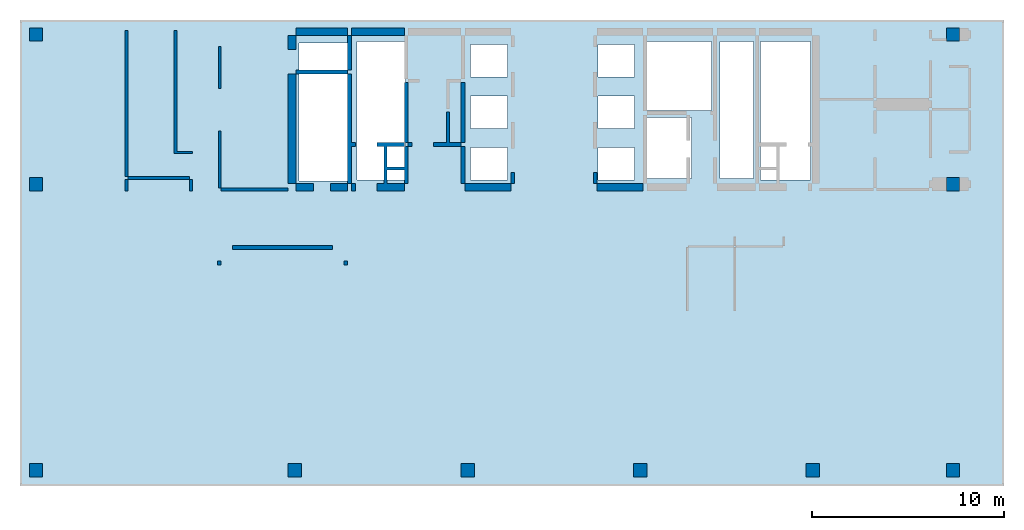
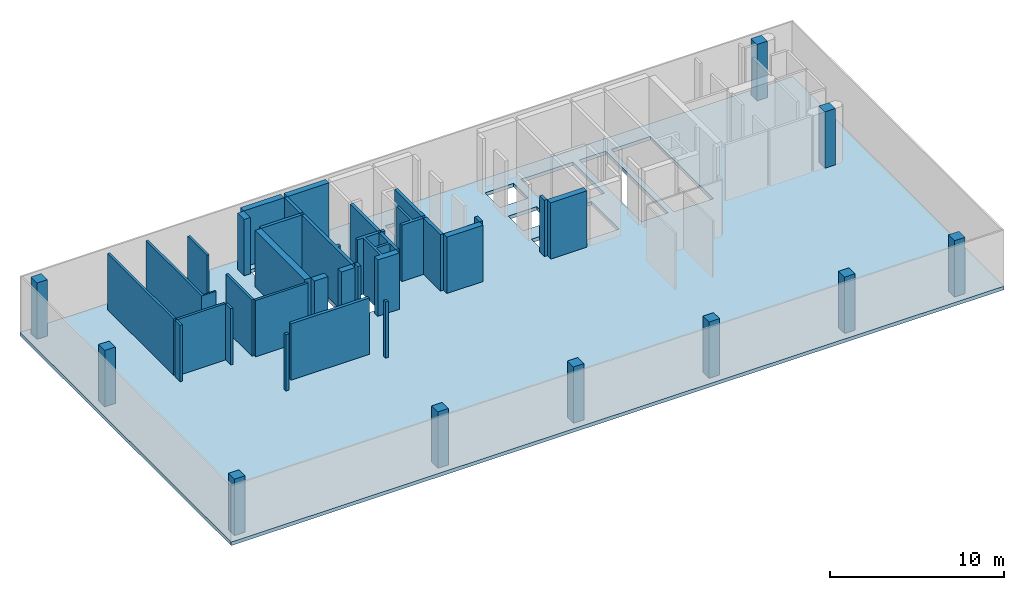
# One storey, part 1 of 4: 31 walls, 10 columns, 1 slab.
"""IFC4 building model written with IfcOpenShell, lengths in millimetres."""

from ifc_helpers import new_model, si_unit, frame, origin, place, context, project, spatial, triangles, element, save


model = new_model("IFC4")

# Units and contexts
model_context = context("Model", 3, precision=0.001, world=origin())
ifc_project = project(units=[si_unit("LENGTHUNIT", "METRE", prefix="MILLI"), si_unit("AREAUNIT", "SQUARE_METRE"), si_unit("VOLUMEUNIT", "CUBIC_METRE")], contexts=[model_context])

# Site, building, storey
site_placement = place(None, origin())
site = spatial("IfcSite", under=ifc_project, at=site_placement, Name="Site", CompositionType="ELEMENT")
building_placement = place(site_placement, origin())
building = spatial("IfcBuilding", under=site, at=building_placement, Name="INNOCEAN", CompositionType="ELEMENT")
storey_placement = place(building_placement, frame((0.0, 0.0, 34400.0)))
storey = spatial("IfcBuildingStorey", under=building, at=storey_placement, Name="F08", CompositionType="ELEMENT", Elevation=34400.0)

# Columns
column_1_placement = place(storey_placement, origin())
element("IfcColumn", 1, at=column_1_placement, inside=storey, Name="F08_Columns_F08_001", context=model_context, shape_type="Tessellation", body=[
    triangles([(40114.8, 2023.7, 0.0), (40114.8, 2023.7, 3950.0), (40114.8, 2722.3, 0.0), (40114.8, 2722.3, 3950.0), (40813.0, 2023.7, 3950.0), (40813.0, 2023.7, 0.0), (40813.0, 2722.3, 0.0), (40813.0, 2722.3, 3950.0)], [[1, 2, 3], [3, 2, 4], [5, 6, 7], [5, 7, 8], [6, 5, 1], [1, 5, 2], [8, 7, 3], [8, 3, 4], [3, 7, 1], [1, 7, 6], [8, 4, 2], [8, 2, 5]], closed=True),
])
column_2_placement = place(storey_placement, origin())
element("IfcColumn", 2, at=column_2_placement, inside=storey, Name="F08_Columns_F08_002", context=model_context, shape_type="Tessellation", body=[
    triangles([(47413.4, 24721.0, 0.0), (47413.4, 24721.0, 3950.0), (47413.4, 25419.5, 0.0), (47413.4, 25419.5, 3950.0), (48111.6, 24721.0, 3950.0), (48111.6, 24721.0, 0.0), (48111.6, 25419.5, 0.0), (48111.6, 25419.5, 3950.0)], [[1, 2, 3], [3, 2, 4], [5, 6, 7], [5, 7, 8], [6, 5, 1], [1, 5, 2], [8, 7, 3], [8, 3, 4], [1, 3, 6], [3, 7, 6], [4, 2, 5], [8, 4, 5]], closed=True),
])
column_3_placement = place(storey_placement, origin())
element("IfcColumn", 3, at=column_3_placement, inside=storey, Name="F08_Columns_F08_003", context=model_context, shape_type="Tessellation", body=[
    triangles([(47413.4, 16922.4, 0.0), (47413.4, 16922.4, 3950.0), (47413.4, 17620.9, 0.0), (47413.4, 17620.9, 3950.0), (48111.6, 16922.4, 3950.0), (48111.6, 16922.4, 0.0), (48111.6, 17620.9, 0.0), (48111.6, 17620.9, 3950.0)], [[1, 2, 3], [3, 2, 4], [5, 6, 7], [5, 7, 8], [6, 5, 1], [1, 5, 2], [8, 7, 3], [8, 3, 4], [1, 3, 6], [3, 7, 6], [4, 2, 5], [8, 4, 5]], closed=True),
])
column_4_placement = place(storey_placement, origin())
element("IfcColumn", 4, at=column_4_placement, inside=storey, Name="F08_Columns_F08_004", context=model_context, shape_type="Tessellation", body=[
    triangles([(13129.0, 2023.7, 0.0), (13129.0, 2023.7, 3950.0), (13129.0, 2722.3, 0.0), (13129.0, 2722.3, 3950.0), (13827.2, 2023.7, 3950.0), (13827.2, 2023.7, 0.0), (13827.2, 2722.3, 0.0), (13827.2, 2722.3, 3950.0)], [[1, 2, 3], [3, 2, 4], [5, 6, 7], [5, 7, 8], [6, 5, 1], [1, 5, 2], [8, 7, 3], [8, 3, 4], [3, 7, 1], [1, 7, 6], [8, 4, 2], [8, 2, 5]], closed=True),
])
column_5_placement = place(storey_placement, origin())
element("IfcColumn", 5, at=column_5_placement, inside=storey, Name="F08_Columns_F08_005", context=model_context, shape_type="Tessellation", body=[
    triangles([(47413.4, 2023.7, 0.0), (47413.4, 2023.7, 3950.0), (47413.4, 2722.3, 0.0), (47413.4, 2722.3, 3950.0), (48111.6, 2023.7, 3950.0), (48111.6, 2023.7, 0.0), (48111.6, 2722.3, 0.0), (48111.6, 2722.3, 3950.0)], [[1, 2, 3], [3, 2, 4], [5, 6, 7], [5, 7, 8], [6, 5, 1], [1, 5, 2], [8, 7, 3], [8, 3, 4], [3, 7, 1], [1, 7, 6], [8, 4, 2], [8, 2, 5]], closed=True),
])
column_6_placement = place(storey_placement, origin())
element("IfcColumn", 6, at=column_6_placement, inside=storey, Name="F08_Columns_F08_006", context=model_context, shape_type="Tessellation", body=[
    triangles([(-363.9, 2023.7, 0.0), (-363.9, 2023.7, 3950.0), (-363.9, 2722.3, 0.0), (-363.9, 2722.3, 3950.0), (334.3, 2023.7, 3950.0), (334.3, 2023.7, 0.0), (334.3, 2722.3, 0.0), (334.3, 2722.3, 3950.0)], [[1, 2, 3], [3, 2, 4], [5, 6, 7], [5, 7, 8], [6, 5, 1], [1, 5, 2], [8, 7, 3], [8, 3, 4], [3, 7, 1], [1, 7, 6], [8, 4, 2], [8, 2, 5]], closed=True),
])
column_7_placement = place(storey_placement, origin())
element("IfcColumn", 7, at=column_7_placement, inside=storey, Name="F08_Columns_F08_007", context=model_context, shape_type="Tessellation", body=[
    triangles([(-363.9, 24721.0, 0.0), (-363.9, 24721.0, 3950.0), (-363.9, 25419.5, 0.0), (-363.9, 25419.5, 3950.0), (334.3, 24721.0, 3950.0), (334.3, 24721.0, 0.0), (334.3, 25419.5, 0.0), (334.3, 25419.5, 3950.0)], [[1, 2, 3], [3, 2, 4], [5, 6, 7], [5, 7, 8], [6, 5, 1], [1, 5, 2], [8, 7, 3], [8, 3, 4], [3, 7, 1], [1, 7, 6], [8, 4, 2], [8, 2, 5]], closed=True),
])
column_8_placement = place(storey_placement, origin())
element("IfcColumn", 8, at=column_8_placement, inside=storey, Name="F08_Columns_F08_008", context=model_context, shape_type="Tessellation", body=[
    triangles([(31128.0, 2023.7, 0.0), (31128.0, 2023.7, 3950.0), (31128.0, 2722.3, 0.0), (31128.0, 2722.3, 3950.0), (31826.2, 2023.7, 3950.0), (31826.2, 2023.7, 0.0), (31826.2, 2722.3, 0.0), (31826.2, 2722.3, 3950.0)], [[1, 2, 3], [3, 2, 4], [5, 6, 7], [5, 7, 8], [6, 5, 1], [1, 5, 2], [8, 7, 3], [8, 3, 4], [3, 7, 1], [1, 7, 6], [8, 4, 2], [8, 2, 5]], closed=True),
])
column_9_placement = place(storey_placement, origin())
element("IfcColumn", 9, at=column_9_placement, inside=storey, Name="F08_Columns_F08_009", context=model_context, shape_type="Tessellation", body=[
    triangles([(22128.5, 2023.7, 0.0), (22128.5, 2023.7, 3950.0), (22128.5, 2722.3, 0.0), (22128.5, 2722.3, 3950.0), (22826.7, 2023.7, 3950.0), (22826.7, 2023.7, 0.0), (22826.7, 2722.3, 0.0), (22826.7, 2722.3, 3950.0)], [[1, 2, 3], [3, 2, 4], [5, 6, 7], [5, 7, 8], [6, 5, 1], [1, 5, 2], [8, 7, 3], [8, 3, 4], [3, 7, 1], [1, 7, 6], [8, 4, 2], [8, 2, 5]], closed=True),
])
column_10_placement = place(storey_placement, origin())
element("IfcColumn", 10, at=column_10_placement, inside=storey, Name="F08_Columns_F08_010", context=model_context, shape_type="Tessellation", body=[
    triangles([(-363.9, 16922.4, 0.0), (-363.9, 16922.4, 3950.0), (-363.9, 17620.9, 0.0), (-363.9, 17620.9, 3950.0), (334.3, 16922.4, 3950.0), (334.3, 16922.4, 0.0), (334.3, 17620.9, 0.0), (334.3, 17620.9, 3950.0)], [[1, 2, 3], [3, 2, 4], [5, 6, 7], [5, 7, 8], [6, 5, 1], [1, 5, 2], [8, 7, 3], [8, 3, 4], [3, 7, 1], [1, 7, 6], [8, 4, 2], [8, 2, 5]], closed=True),
])

# Slab
slab_placement = place(storey_placement, origin())
element("IfcSlab", 11, at=slab_placement, inside=storey, Name="F08_Slab_F08_001", context=model_context, shape_type="Tessellation", body=[
    triangles([(-846.215139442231, 25825.974025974, 0.0), (50420.3187250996, 25825.974025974, -250.0), (-846.215139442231, 25825.974025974, -250.0), (50420.3187250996, 25825.974025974, 0.0), (-846.215139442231, 1552.38095238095, 0.0), (-846.215139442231, 1552.38095238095, -250.0), (50420.3187250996, 1552.38095238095, 0.0), (50420.3187250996, 1552.38095238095, -250.0), (34130.6772908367, 20745.4545454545, -250.0), (31733.0677290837, 20745.4545454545, 0.0), (31733.0677290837, 20745.4545454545, -250.0), (34130.6772908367, 20745.4545454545, 0.0), (31733.0677290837, 17570.1298701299, 0.0), (31733.0677290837, 17570.1298701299, -250.0), (34130.6772908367, 17570.1298701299, 0.0), (34130.6772908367, 17570.1298701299, -250.0), (31168.9243027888, 19193.0735930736, 0.0), (29264.9402390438, 19193.0735930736, 0.0), (29264.9402390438, 19193.0735930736, -250.0), (31168.9243027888, 19193.0735930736, -250.0), (31168.9243027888, 17499.5670995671, 0.0), (31168.9243027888, 17499.5670995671, -250.0), (29264.9402390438, 17499.5670995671, 0.0), (29264.9402390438, 17499.5670995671, -250.0), (31168.9243027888, 21874.4588744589, 0.0), (29264.9402390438, 21874.4588744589, 0.0), (29264.9402390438, 21874.4588744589, -250.0), (31168.9243027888, 21874.4588744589, -250.0), (29264.9402390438, 20180.9523809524, 0.0), (29264.9402390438, 20180.9523809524, -250.0), (31168.9243027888, 20180.9523809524, 0.0), (31168.9243027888, 20180.9523809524, -250.0), (24540.2390438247, 19193.0735930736, -250.0), (22636.2549800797, 19193.0735930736, 0.0), (22636.2549800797, 19193.0735930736, -250.0), (24540.2390438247, 19193.0735930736, 0.0), (22636.2549800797, 17499.5670995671, 0.0), (22636.2549800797, 17499.5670995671, -250.0), (24540.2390438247, 17499.5670995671, 0.0), (24540.2390438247, 17499.5670995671, -250.0), (24540.2390438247, 21874.4588744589, -250.0), (22636.2549800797, 21874.4588744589, 0.0), (22636.2549800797, 21874.4588744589, -250.0), (24540.2390438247, 21874.4588744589, 0.0), (22636.2549800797, 20180.9523809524, 0.0), (22636.2549800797, 20180.9523809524, -250.0), (24540.2390438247, 20180.9523809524, 0.0), (24540.2390438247, 20180.9523809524, -250.0), (16219.1235059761, 24626.4069264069, 0.0), (13680.4780876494, 24626.4069264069, 0.0), (13680.4780876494, 24626.4069264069, -250.0), (16219.1235059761, 24626.4069264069, -250.0), (13680.4780876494, 17429.0043290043, 0.0), (13680.4780876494, 17429.0043290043, -250.0), (16219.1235059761, 17429.0043290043, 0.0), (16219.1235059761, 17429.0043290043, -250.0), (40336.2549800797, 24696.9696969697, -250.0), (37727.0916334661, 24696.9696969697, 0.0), (37727.0916334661, 24696.9696969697, -250.0), (40336.2549800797, 24696.9696969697, 0.0), (37727.0916334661, 17499.5670995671, 0.0), (37727.0916334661, 17499.5670995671, -250.0), (40336.2549800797, 17499.5670995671, 0.0), (40336.2549800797, 17499.5670995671, -250.0), (37374.5019920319, 24696.9696969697, 0.0), (35611.5537848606, 24696.9696969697, 0.0), (35611.5537848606, 24696.9696969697, -250.0), (37374.5019920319, 24696.9696969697, -250.0), (35611.5537848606, 17570.1298701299, 0.0), (35611.5537848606, 17570.1298701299, -250.0), (37374.5019920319, 17570.1298701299, 0.0), (37374.5019920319, 17570.1298701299, -250.0), (35188.4462151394, 24696.9696969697, 0.0), (31733.0677290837, 24696.9696969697, 0.0), (31733.0677290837, 24696.9696969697, -250.0), (35188.4462151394, 24696.9696969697, -250.0), (31733.0677290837, 21098.2683982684, 0.0), (31733.0677290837, 21098.2683982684, -250.0), (35188.4462151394, 21098.2683982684, 0.0), (35188.4462151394, 21098.2683982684, -250.0), (31168.9243027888, 24555.8441558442, 0.0), (29264.9402390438, 24555.8441558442, 0.0), (29264.9402390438, 24555.8441558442, -250.0), (31168.9243027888, 24555.8441558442, -250.0), (29264.9402390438, 22862.3376623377, 0.0), (29264.9402390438, 22862.3376623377, -250.0), (31168.9243027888, 22862.3376623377, 0.0), (31168.9243027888, 22862.3376623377, -250.0), (19251.3944223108, 24696.9696969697, 0.0), (16712.7490039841, 24696.9696969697, 0.0), (16712.7490039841, 24696.9696969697, -250.0), (19251.3944223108, 24696.9696969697, -250.0), (16712.7490039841, 17499.5670995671, 0.0), (16712.7490039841, 17499.5670995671, -250.0), (19251.3944223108, 17499.5670995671, 0.0), (19251.3944223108, 17499.5670995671, -250.0), (24540.2390438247, 24555.8441558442, -250.0), (22636.2549800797, 24555.8441558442, 0.0), (22636.2549800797, 24555.8441558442, -250.0), (24540.2390438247, 24555.8441558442, 0.0), (22636.2549800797, 22862.3376623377, 0.0), (22636.2549800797, 22862.3376623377, -250.0), (24540.2390438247, 22862.3376623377, 0.0), (24540.2390438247, 22862.3376623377, -250.0)], [[1, 2, 3], [1, 4, 2], [5, 1, 6], [6, 1, 3], [4, 7, 2], [2, 7, 8], [7, 6, 8], [7, 5, 6], [9, 10, 11], [12, 10, 9], [10, 13, 14], [10, 14, 11], [15, 12, 9], [15, 9, 16], [14, 15, 16], [13, 15, 14], [17, 18, 19], [17, 19, 20], [21, 17, 20], [21, 20, 22], [23, 21, 22], [23, 22, 24], [18, 23, 24], [18, 24, 19], [25, 26, 27], [25, 27, 28], [26, 29, 30], [26, 30, 27], [31, 25, 28], [31, 28, 32], [29, 31, 32], [29, 32, 30], [33, 34, 35], [36, 34, 33], [34, 37, 38], [34, 38, 35], [39, 36, 33], [39, 33, 40], [38, 39, 40], [37, 39, 38], [41, 42, 43], [44, 42, 41], [42, 45, 46], [42, 46, 43], [47, 44, 41], [47, 41, 48], [46, 47, 48], [45, 47, 46], [49, 50, 51], [49, 51, 52], [50, 53, 54], [50, 54, 51], [55, 49, 52], [55, 52, 56], [53, 55, 56], [53, 56, 54], [57, 58, 59], [60, 58, 57], [58, 61, 62], [58, 62, 59], [63, 60, 57], [63, 57, 64], [62, 63, 64], [61, 63, 62], [65, 66, 67], [65, 67, 68], [66, 69, 70], [66, 70, 67], [71, 65, 68], [71, 68, 72], [69, 71, 72], [69, 72, 70], [73, 74, 75], [73, 75, 76], [74, 77, 78], [74, 78, 75], [79, 73, 76], [79, 76, 80], [77, 79, 80], [77, 80, 78], [81, 82, 83], [81, 83, 84], [82, 85, 86], [82, 86, 83], [87, 81, 84], [87, 84, 88], [85, 87, 88], [85, 88, 86], [89, 90, 91], [89, 91, 92], [90, 93, 94], [90, 94, 91], [95, 89, 92], [95, 92, 96], [93, 95, 96], [93, 96, 94], [97, 98, 99], [100, 98, 97], [98, 101, 102], [98, 102, 99], [103, 100, 97], [103, 97, 104], [102, 103, 104], [101, 103, 102], [4, 63, 7], [63, 61, 7], [61, 69, 7], [71, 69, 61], [69, 15, 7], [4, 60, 63], [13, 21, 15], [15, 21, 7], [79, 12, 69], [69, 12, 15], [13, 17, 21], [21, 23, 7], [17, 10, 31], [12, 77, 10], [10, 77, 31], [66, 73, 79], [31, 18, 17], [77, 25, 31], [31, 29, 18], [77, 87, 25], [23, 39, 7], [74, 81, 87], [25, 85, 26], [87, 85, 25], [29, 36, 18], [18, 36, 23], [23, 36, 39], [74, 82, 81], [26, 47, 29], [29, 47, 36], [26, 44, 47], [36, 45, 34], [47, 45, 36], [34, 95, 37], [45, 95, 34], [85, 103, 26], [26, 103, 44], [103, 42, 44], [45, 42, 95], [85, 100, 103], [82, 100, 85], [103, 101, 42], [93, 55, 95], [39, 5, 7], [37, 5, 39], [95, 5, 37], [55, 5, 95], [55, 53, 5], [42, 89, 95], [101, 89, 42], [98, 89, 101], [90, 49, 93], [93, 49, 55], [90, 50, 49], [50, 1, 53], [53, 1, 5], [4, 1, 60], [60, 1, 58], [58, 1, 65], [65, 1, 66], [66, 1, 73], [73, 1, 74], [74, 1, 82], [82, 1, 100], [100, 1, 98], [98, 1, 89], [89, 1, 90], [90, 1, 50], [13, 10, 17], [69, 66, 79], [65, 71, 58], [58, 71, 61], [77, 74, 87], [79, 77, 12], [64, 2, 8], [62, 64, 8], [70, 62, 8], [70, 72, 62], [16, 70, 8], [57, 2, 64], [22, 14, 16], [22, 16, 8], [9, 80, 70], [9, 70, 16], [20, 14, 22], [24, 22, 8], [11, 20, 32], [78, 9, 11], [78, 11, 32], [76, 67, 80], [19, 32, 20], [28, 78, 32], [30, 32, 19], [88, 78, 28], [40, 24, 8], [84, 75, 88], [86, 28, 27], [86, 88, 28], [33, 30, 19], [33, 19, 24], [33, 24, 40], [83, 75, 84], [48, 27, 30], [48, 30, 33], [41, 27, 48], [46, 33, 35], [46, 48, 33], [96, 35, 38], [96, 46, 35], [104, 86, 27], [104, 27, 41], [43, 104, 41], [43, 46, 96], [97, 86, 104], [97, 83, 86], [102, 104, 43], [56, 94, 96], [6, 40, 8], [6, 38, 40], [6, 96, 38], [6, 56, 96], [54, 56, 6], [92, 43, 96], [92, 102, 43], [92, 99, 102], [52, 91, 94], [52, 94, 56], [51, 91, 52], [3, 51, 54], [3, 54, 6], [3, 2, 57], [3, 57, 59], [3, 59, 68], [3, 68, 67], [3, 67, 76], [3, 76, 75], [3, 75, 83], [3, 83, 97], [3, 97, 99], [3, 99, 92], [3, 92, 91], [3, 91, 51], [11, 14, 20], [67, 70, 80], [72, 68, 59], [72, 59, 62], [75, 78, 88], [78, 80, 9]], closed=True),
])

# Walls
wall_1_placement = place(storey_placement, origin())
element("IfcWall", 12, at=wall_1_placement, inside=storey, Name="F08_Walls_F08_001", context=model_context, shape_type="Tessellation", body=[
    triangles([(16226.2, 13073.9, 0.0), (16226.2, 13277.1, 0.0), (16226.2, 13277.1, 3950.0), (16226.2, 13073.9, 3950.0), (16035.8, 13073.9, 0.0), (16035.8, 13073.9, 3950.0), (16035.8, 13277.1, 0.0), (16035.8, 13277.1, 3950.0)], [[1, 2, 3], [1, 3, 4], [5, 1, 4], [5, 4, 6], [7, 5, 6], [7, 6, 8], [2, 7, 8], [2, 8, 3], [7, 2, 1], [7, 1, 5], [3, 8, 4], [4, 8, 6]], closed=True),
])
wall_2_placement = place(storey_placement, origin())
element("IfcWall", 13, at=wall_2_placement, inside=storey, Name="F08_Walls_F08_002", context=model_context, shape_type="Tessellation", body=[
    triangles([(9638.4, 13073.9, 0.0), (9638.4, 13277.1, 0.0), (9638.4, 13277.1, 3950.0), (9638.4, 13073.9, 3950.0), (9435.3, 13073.9, 0.0), (9435.3, 13073.9, 3950.0), (9435.3, 13277.1, 0.0), (9435.3, 13277.1, 3950.0)], [[1, 2, 3], [1, 3, 4], [5, 1, 4], [5, 4, 6], [7, 5, 6], [7, 6, 8], [2, 7, 8], [2, 8, 3], [7, 2, 1], [7, 1, 5], [3, 8, 4], [4, 8, 6]], closed=True),
])
wall_3_placement = place(storey_placement, origin())
element("IfcWall", 14, at=wall_3_placement, inside=storey, Name="F08_Walls_F08_003", context=model_context, shape_type="Tessellation", body=[
    triangles([(15426.5, 13874.1, 0.0), (15426.5, 14077.3, 0.0), (15426.5, 14077.3, 3950.0), (15426.5, 13874.1, 3950.0), (10235.0, 13874.1, 0.0), (10235.0, 13874.1, 3950.0), (10235.0, 14077.3, 0.0), (10235.0, 14077.3, 3950.0)], [[1, 2, 3], [1, 3, 4], [5, 1, 4], [5, 4, 6], [7, 5, 6], [7, 6, 8], [2, 7, 8], [2, 8, 3], [5, 2, 1], [7, 2, 5], [3, 6, 4], [3, 8, 6]], closed=True),
])
wall_4_placement = place(storey_placement, origin())
element("IfcWall", 15, at=wall_4_placement, inside=storey, Name="F08_Walls_F08_004", context=model_context, shape_type="Tessellation", body=[
    triangles([(13129.0, 16922.4, 0.0), (13129.0, 17074.8, 0.0), (13129.0, 17074.8, 3950.0), (13129.0, 16922.4, 3950.0), (9638.4, 16922.4, 3950.0), (9638.4, 16922.4, 0.0), (9638.4, 17074.8, 0.0), (9638.4, 17074.8, 3950.0)], [[1, 2, 3], [1, 3, 4], [1, 4, 5], [6, 1, 5], [7, 6, 5], [7, 5, 8], [7, 8, 3], [2, 7, 3], [7, 2, 1], [7, 1, 6], [3, 8, 4], [4, 8, 5]], closed=True),
])
wall_5_placement = place(storey_placement, origin())
element("IfcWall", 16, at=wall_5_placement, inside=storey, Name="F08_Walls_F08_005", context=model_context, shape_type="Tessellation", body=[
    triangles([(16226.2, 17316.1, 0.0), (16226.2, 17316.1, 3950.0), (16226.2, 16922.4, 3950.0), (16226.2, 16922.4, 0.0), (15337.6, 16922.4, 0.0), (15337.6, 16922.4, 3950.0), (15337.6, 17316.1, 3950.0), (15337.6, 17316.1, 0.0)], [[1, 2, 3], [4, 1, 3], [5, 4, 3], [5, 3, 6], [5, 6, 7], [8, 5, 7], [1, 8, 7], [1, 7, 2], [8, 1, 4], [8, 4, 5], [2, 7, 3], [3, 7, 6]], closed=True),
])
wall_6_placement = place(storey_placement, origin())
element("IfcWall", 17, at=wall_6_placement, inside=storey, Name="F08_Walls_F08_006", context=model_context, shape_type="Tessellation", body=[
    triangles([(14436.4, 17316.1, 0.0), (14436.4, 17316.1, 3950.0), (14436.4, 16922.4, 3950.0), (14436.4, 16922.4, 0.0), (13535.2, 16922.4, 0.0), (13535.2, 16922.4, 3950.0), (13535.2, 17316.1, 3950.0), (13535.2, 17316.1, 0.0)], [[1, 2, 3], [4, 1, 3], [5, 4, 3], [5, 3, 6], [5, 6, 7], [8, 5, 7], [1, 8, 7], [1, 7, 2], [8, 1, 4], [8, 4, 5], [2, 7, 3], [3, 7, 6]], closed=True),
])
wall_7_placement = place(storey_placement, origin())
element("IfcWall", 18, at=wall_7_placement, inside=storey, Name="F08_Walls_F08_007", context=model_context, shape_type="Tessellation", body=[
    triangles([(16632.4, 17316.1, 0.0), (16632.4, 17316.1, 3950.0), (16632.4, 16922.4, 3950.0), (16632.4, 16922.4, 0.0), (16429.3, 16922.4, 3950.0), (16429.3, 16922.4, 0.0), (16429.3, 17316.1, 3950.0), (16429.3, 17316.1, 0.0)], [[1, 2, 3], [4, 1, 3], [4, 3, 5], [6, 4, 5], [6, 5, 7], [8, 6, 7], [8, 7, 2], [1, 8, 2], [8, 1, 4], [8, 4, 6], [2, 7, 3], [3, 7, 5]], closed=True),
])
wall_8_placement = place(storey_placement, origin())
element("IfcWall", 19, at=wall_8_placement, inside=storey, Name="F08_Walls_F08_008", context=model_context, shape_type="Tessellation", body=[
    triangles([(17749.4, 16922.4, 0.0), (17749.4, 16922.4, 3950.0), (17749.4, 17316.1, 3950.0), (17749.4, 17316.1, 0.0), (19183.7, 16922.4, 0.0), (19183.7, 16922.4, 3950.0), (19183.7, 17316.1, 0.0), (19183.7, 17316.1, 3950.0), (19374.1, 17316.1, 0.0), (19374.1, 17316.1, 3950.0), (19374.1, 19246.7, 0.0), (19374.1, 19246.7, 3950.0), (19183.7, 19246.7, 0.0), (19183.7, 19246.7, 3950.0), (19183.7, 19449.9, 0.0), (19183.7, 19449.9, 3950.0), (17749.4, 19449.9, 0.0), (17749.4, 19449.9, 3950.0), (17749.4, 19246.7, 0.0), (17749.4, 19246.7, 3950.0), (18130.2, 19246.7, 0.0), (18130.2, 19246.7, 3950.0), (18130.2, 19245.0, 0.0), (18130.2, 19245.0, 3950.0), (18130.0, 19245.0, 0.0), (18130.0, 19245.0, 3950.0), (18130.0, 17316.1, 0.0), (18130.0, 17316.1, 3950.0), (18282.5, 17316.1, 0.0), (18282.5, 17316.1, 3950.0), (18282.5, 18014.7, 0.0), (18282.5, 18014.7, 3950.0), (19183.7, 18014.7, 0.0), (19183.7, 18014.7, 3950.0), (19183.7, 18167.1, 0.0), (19183.7, 18167.1, 3950.0), (18282.5, 18167.1, 0.0), (18282.5, 18167.1, 3950.0), (18282.5, 19246.7, 0.0), (18282.5, 19246.7, 3950.0)], [[1, 2, 3], [4, 1, 3], [1, 5, 6], [1, 6, 2], [7, 8, 6], [5, 7, 6], [7, 9, 10], [7, 10, 8], [9, 11, 12], [9, 12, 10], [11, 13, 14], [11, 14, 12], [13, 15, 16], [13, 16, 14], [15, 17, 18], [15, 18, 16], [17, 19, 20], [17, 20, 18], [21, 22, 20], [19, 21, 20], [21, 23, 24], [21, 24, 22], [23, 25, 26], [23, 26, 24], [25, 27, 28], [25, 28, 26], [27, 4, 3], [27, 3, 28], [7, 29, 30], [7, 30, 8], [29, 31, 32], [29, 32, 30], [31, 33, 34], [31, 34, 32], [33, 7, 8], [33, 8, 34], [13, 35, 36], [13, 36, 14], [35, 37, 38], [35, 38, 36], [37, 39, 40], [37, 40, 38], [39, 13, 14], [39, 14, 40], [33, 9, 7], [35, 9, 33], [29, 7, 5], [1, 29, 5], [27, 29, 1], [4, 27, 1], [31, 35, 33], [31, 29, 27], [11, 9, 35], [37, 35, 31], [13, 11, 35], [39, 15, 13], [23, 39, 37], [25, 23, 37], [21, 39, 23], [17, 21, 19], [17, 15, 39], [17, 39, 21], [27, 25, 37], [27, 37, 31], [10, 34, 8], [10, 36, 34], [8, 30, 6], [30, 2, 6], [30, 28, 2], [28, 3, 2], [36, 32, 34], [30, 32, 28], [10, 12, 36], [36, 38, 32], [12, 14, 36], [16, 40, 14], [40, 24, 38], [24, 26, 38], [40, 22, 24], [22, 18, 20], [16, 18, 40], [40, 18, 22], [26, 28, 38], [38, 28, 32]], closed=True),
])
wall_9_placement = place(storey_placement, origin())
element("IfcWall", 20, at=wall_9_placement, inside=storey, Name="F08_Walls_F08_009", context=model_context, shape_type="Tessellation", body=[
    triangles([(4789.6, 16922.4, 0.0), (4789.6, 17519.3, 0.0), (4789.6, 17519.3, 3950.0), (4789.6, 16922.4, 3950.0), (4637.3, 16922.4, 0.0), (4637.3, 16922.4, 3950.0), (4637.3, 17519.3, 0.0), (4637.3, 17519.3, 3950.0)], [[1, 2, 3], [1, 3, 4], [5, 1, 4], [5, 4, 6], [7, 5, 6], [7, 6, 8], [2, 7, 8], [2, 8, 3], [7, 2, 1], [7, 1, 5], [3, 8, 4], [4, 8, 6]], closed=True),
])
wall_10_placement = place(storey_placement, origin())
element("IfcWall", 21, at=wall_10_placement, inside=storey, Name="F08_Walls_F08_010", context=model_context, shape_type="Tessellation", body=[
    triangles([(8140.6, 16922.4, 0.0), (8140.6, 17519.3, 0.0), (8140.6, 17519.3, 3950.0), (8140.6, 16922.4, 3950.0), (7988.3, 16922.4, 0.0), (7988.3, 16922.4, 3950.0), (7988.3, 17519.3, 0.0), (7988.3, 17519.3, 3950.0)], [[1, 2, 3], [1, 3, 4], [5, 1, 4], [5, 4, 6], [7, 5, 6], [7, 6, 8], [2, 7, 8], [2, 8, 3], [7, 2, 1], [7, 1, 5], [3, 8, 4], [4, 8, 6]], closed=True),
])
wall_11_placement = place(storey_placement, origin())
element("IfcWall", 22, at=wall_11_placement, inside=storey, Name="F08_Walls_F08_011", context=model_context, shape_type="Tessellation", body=[
    triangles([(7988.3, 17519.3, 0.0), (7988.3, 17671.7, 0.0), (7988.3, 17671.7, 3950.0), (7988.3, 17519.3, 3950.0), (4789.6, 17519.3, 0.0), (4789.6, 17519.3, 3950.0), (4789.6, 17671.7, 0.0), (4789.6, 17671.7, 3950.0)], [[1, 2, 3], [1, 3, 4], [5, 1, 4], [5, 4, 6], [7, 5, 6], [7, 6, 8], [2, 7, 8], [2, 8, 3], [7, 2, 1], [7, 1, 5], [3, 8, 4], [4, 8, 6]], closed=True),
])
wall_12_placement = place(storey_placement, origin())
element("IfcWall", 23, at=wall_12_placement, inside=storey, Name="F08_Walls_F08_012", context=model_context, shape_type="Tessellation", body=[
    triangles([(16226.2, 23019.0, 0.0), (16226.2, 19449.9, 0.0), (16226.2, 19449.9, 3950.0), (16226.2, 23019.0, 3950.0), (16429.3, 23019.0, 0.0), (16429.3, 23019.0, 3950.0), (16429.3, 19449.9, 0.0), (16429.3, 19449.9, 3950.0), (16632.4, 19449.9, 3950.0), (16632.4, 19449.9, 0.0), (16632.4, 19246.7, 0.0), (16632.4, 19246.7, 3950.0), (16429.3, 19246.7, 3950.0), (16429.3, 19246.7, 0.0), (16429.3, 17316.1, 0.0), (16429.3, 17316.1, 3950.0), (16226.2, 17316.1, 0.0), (16226.2, 17316.1, 3950.0), (16226.2, 19246.7, 0.0), (16226.2, 19246.7, 3950.0)], [[1, 2, 3], [1, 3, 4], [5, 1, 4], [5, 4, 6], [7, 5, 6], [7, 6, 8], [7, 8, 9], [10, 7, 9], [11, 10, 9], [11, 9, 12], [11, 12, 13], [14, 11, 13], [15, 14, 13], [15, 13, 16], [17, 15, 16], [17, 16, 18], [19, 17, 18], [19, 18, 20], [2, 19, 20], [2, 20, 3], [19, 14, 15], [19, 15, 17], [7, 10, 11], [7, 11, 14], [2, 7, 14], [2, 14, 19], [5, 7, 2], [1, 5, 2], [13, 20, 16], [16, 20, 18], [9, 8, 12], [12, 8, 13], [8, 3, 13], [13, 3, 20], [8, 6, 3], [6, 4, 3]], closed=True),
])
wall_13_placement = place(storey_placement, origin())
element("IfcWall", 24, at=wall_13_placement, inside=storey, Name="F08_Walls_F08_013", context=model_context, shape_type="Tessellation", body=[
    triangles([(9638.4, 17074.8, 0.0), (9638.4, 20046.9, 0.0), (9638.4, 20046.9, 3950.0), (9638.4, 17074.8, 3950.0), (9486.1, 17074.8, 0.0), (9486.1, 17074.8, 3950.0), (9486.1, 20046.9, 0.0), (9486.1, 20046.9, 3950.0)], [[1, 2, 3], [1, 3, 4], [5, 1, 4], [5, 4, 6], [7, 5, 6], [7, 6, 8], [2, 7, 8], [2, 8, 3], [7, 2, 1], [7, 1, 5], [3, 8, 4], [4, 8, 6]], closed=True),
])
wall_14_placement = place(storey_placement, origin())
element("IfcWall", 25, at=wall_14_placement, inside=storey, Name="F08_Walls_F08_014", context=model_context, shape_type="Tessellation", body=[
    triangles([(7340.0, 18865.0, 0.0), (8140.0, 18865.0, 0.0), (8140.0, 18865.0, 3950.0), (7340.0, 18865.0, 3950.0), (7340.0, 18865.7, 3950.0), (7340.0, 18865.7, 0.0), (7188.6, 18865.7, 0.0), (7188.6, 18865.7, 3950.0), (7188.6, 25267.1, 3950.0), (7188.6, 25267.1, 0.0), (7340.9, 25267.1, 0.0), (7340.9, 25267.1, 3950.0), (7340.9, 18967.3, 0.0), (7340.9, 18967.3, 3950.0), (8140.6, 18967.3, 0.0), (8140.6, 18967.3, 3950.0), (8140.6, 18865.7, 0.0), (8140.6, 18865.7, 3950.0), (8140.0, 18865.7, 0.0), (8140.0, 18865.7, 3950.0)], [[1, 2, 3], [1, 3, 4], [1, 4, 5], [6, 1, 5], [7, 6, 5], [7, 5, 8], [9, 7, 8], [10, 7, 9], [11, 10, 9], [11, 9, 12], [13, 11, 12], [13, 12, 14], [15, 13, 14], [15, 14, 16], [17, 15, 16], [17, 16, 18], [19, 17, 18], [19, 18, 20], [19, 20, 3], [2, 19, 3], [15, 17, 19], [1, 19, 2], [6, 19, 1], [13, 15, 19], [13, 19, 6], [7, 13, 6], [10, 11, 13], [10, 13, 7], [18, 16, 20], [20, 4, 3], [20, 5, 4], [16, 14, 20], [20, 14, 5], [14, 8, 5], [12, 9, 14], [14, 9, 8]], closed=True),
])
wall_15_placement = place(storey_placement, origin())
element("IfcWall", 26, at=wall_15_placement, inside=storey, Name="F08_Walls_F08_015", context=model_context, shape_type="Tessellation", body=[
    triangles([(13535.2, 17316.1, 0.0), (13535.2, 23019.0, 0.0), (13535.2, 23019.0, 3950.0), (13535.2, 17316.1, 3950.0), (13129.0, 17316.1, 3950.0), (13129.0, 17316.1, 0.0), (13129.0, 23019.0, 0.0), (13129.0, 23019.0, 3950.0)], [[1, 2, 3], [1, 3, 4], [1, 4, 5], [6, 1, 5], [7, 6, 5], [7, 5, 8], [7, 8, 3], [2, 7, 3], [7, 2, 1], [7, 1, 6], [3, 8, 4], [4, 8, 5]], closed=True),
])
wall_16_placement = place(storey_placement, origin())
element("IfcWall", 27, at=wall_16_placement, inside=storey, Name="F08_Walls_F08_016", context=model_context, shape_type="Tessellation", body=[
    triangles([(4789.6, 17671.7, 0.0), (4789.6, 25267.1, 0.0), (4789.6, 25267.1, 3950.0), (4789.6, 17671.7, 3950.0), (4637.3, 17671.7, 0.0), (4637.3, 17671.7, 3950.0), (4637.3, 25267.1, 0.0), (4637.3, 25267.1, 3950.0)], [[1, 2, 3], [1, 3, 4], [5, 1, 4], [5, 4, 6], [7, 5, 6], [7, 6, 8], [2, 7, 8], [2, 8, 3], [7, 2, 1], [7, 1, 5], [3, 8, 4], [4, 8, 6]], closed=True),
])
wall_17_placement = place(storey_placement, origin())
element("IfcWall", 28, at=wall_17_placement, inside=storey, Name="F08_Walls_F08_017", context=model_context, shape_type="Tessellation", body=[
    triangles([(16226.2, 23019.0, 0.0), (16226.2, 23222.2, 0.0), (16226.2, 23222.2, 3950.0), (16226.2, 23019.0, 3950.0), (13535.2, 23019.0, 0.0), (13535.2, 23019.0, 3950.0), (13535.2, 23222.2, 0.0), (13535.2, 23222.2, 3950.0)], [[1, 2, 3], [1, 3, 4], [5, 1, 4], [5, 4, 6], [7, 5, 6], [7, 6, 8], [2, 7, 8], [2, 8, 3], [7, 2, 1], [7, 1, 5], [3, 8, 4], [4, 8, 6]], closed=True),
])
wall_18_placement = place(storey_placement, origin())
element("IfcWall", 29, at=wall_18_placement, inside=storey, Name="F08_Walls_F08_018", context=model_context, shape_type="Tessellation", body=[
    triangles([(9638.4, 22244.2, 0.0), (9638.4, 24454.2, 0.0), (9638.4, 24454.2, 3950.0), (9638.4, 22244.2, 3950.0), (9486.1, 22244.2, 0.0), (9486.1, 22244.2, 3950.0), (9486.1, 24454.2, 0.0), (9486.1, 24454.2, 3950.0)], [[1, 2, 3], [1, 3, 4], [5, 1, 4], [5, 4, 6], [7, 5, 6], [7, 6, 8], [2, 7, 8], [2, 8, 3], [7, 2, 1], [7, 1, 5], [3, 8, 4], [4, 8, 6]], closed=True),
])
wall_19_placement = place(storey_placement, origin())
element("IfcWall", 30, at=wall_19_placement, inside=storey, Name="F08_Walls_F08_020", context=model_context, shape_type="Tessellation", body=[
    triangles([(16226.2, 25025.8, 0.0), (16226.2, 23222.2, 0.0), (16226.2, 23222.2, 3950.0), (16226.2, 25025.8, 3950.0), (16429.3, 25025.8, 0.0), (16429.3, 25025.8, 3950.0), (16429.3, 23222.2, 0.0), (16429.3, 23222.2, 3950.0)], [[1, 2, 3], [1, 3, 4], [5, 1, 4], [5, 4, 6], [7, 5, 6], [7, 6, 8], [2, 7, 8], [2, 8, 3], [1, 5, 7], [1, 7, 2], [6, 4, 8], [8, 4, 3]], closed=True),
])
wall_20_placement = place(storey_placement, origin())
element("IfcWall", 31, at=wall_20_placement, inside=storey, Name="F08_Walls_F08_021", context=model_context, shape_type="Tessellation", body=[
    triangles([(13535.2, 24276.4, 0.0), (13535.2, 25025.8, 0.0), (13535.2, 25025.8, 3950.0), (13535.2, 24276.4, 3950.0), (13129.0, 24276.4, 3950.0), (13129.0, 24276.4, 0.0), (13129.0, 25025.8, 0.0), (13129.0, 25025.8, 3950.0)], [[1, 2, 3], [1, 3, 4], [1, 4, 5], [6, 1, 5], [7, 6, 5], [7, 5, 8], [7, 8, 3], [2, 7, 3], [2, 1, 6], [7, 2, 6], [4, 3, 5], [3, 8, 5]], closed=True),
])
wall_21_placement = place(storey_placement, origin())
element("IfcWall", 32, at=wall_21_placement, inside=storey, Name="F08_Walls_F08_022", context=model_context, shape_type="Tessellation", body=[
    triangles([(13535.2, 25419.5, 0.0), (13535.2, 25025.8, 0.0), (13535.2, 25025.8, 3950.0), (13535.2, 25419.5, 3950.0), (16226.2, 25419.5, 0.0), (16226.2, 25419.5, 3950.0), (16226.2, 25025.8, 0.0), (16226.2, 25025.8, 3950.0)], [[1, 2, 3], [1, 3, 4], [5, 1, 4], [5, 4, 6], [7, 5, 6], [7, 6, 8], [2, 7, 8], [2, 8, 3], [2, 5, 7], [1, 5, 2], [6, 3, 8], [6, 4, 3]], closed=True),
])
wall_22_placement = place(storey_placement, origin())
element("IfcWall", 33, at=wall_22_placement, inside=storey, Name="F08_Walls_F08_023", context=model_context, shape_type="Tessellation", body=[
    triangles([(19183.7, 25025.8, 0.0), (19183.7, 25419.5, 0.0), (19183.7, 25419.5, 3950.0), (19183.7, 25025.8, 3950.0), (16429.3, 25025.8, 0.0), (16429.3, 25025.8, 3950.0), (16429.3, 25419.5, 0.0), (16429.3, 25419.5, 3950.0)], [[1, 2, 3], [1, 3, 4], [5, 1, 4], [5, 4, 6], [7, 5, 6], [7, 6, 8], [2, 7, 8], [2, 8, 3], [7, 2, 1], [7, 1, 5], [3, 8, 4], [4, 8, 6]], closed=True),
])
wall_23_placement = place(storey_placement, origin())
element("IfcWall", 34, at=wall_23_placement, inside=storey, Name="F08_Walls_F08_025", context=model_context, shape_type="Tessellation", body=[
    triangles([(31623.1, 17316.1, 0.0), (31623.1, 17316.1, 3950.0), (31623.1, 16922.4, 3950.0), (31623.1, 16922.4, 0.0), (29224.0, 16922.4, 0.0), (29224.0, 16922.4, 3950.0), (29224.0, 17316.1, 3950.0), (29224.0, 17316.1, 0.0)], [[1, 2, 3], [4, 1, 3], [5, 4, 3], [5, 3, 6], [5, 6, 7], [8, 5, 7], [1, 8, 7], [1, 7, 2], [8, 1, 4], [8, 4, 5], [2, 7, 3], [3, 7, 6]], closed=True),
])
wall_24_placement = place(storey_placement, origin())
element("IfcWall", 35, at=wall_24_placement, inside=storey, Name="F08_Walls_F08_026", context=model_context, shape_type="Tessellation", body=[
    triangles([(24730.6, 17316.1, 0.0), (24730.6, 17316.1, 3950.0), (24730.6, 16922.4, 3950.0), (24730.6, 16922.4, 0.0), (22331.6, 16922.4, 0.0), (22331.6, 16922.4, 3950.0), (22331.6, 17316.1, 3950.0), (22331.6, 17316.1, 0.0)], [[1, 2, 3], [4, 1, 3], [5, 4, 3], [5, 3, 6], [5, 6, 7], [8, 5, 7], [1, 8, 7], [1, 7, 2], [8, 1, 4], [8, 4, 5], [2, 7, 3], [3, 7, 6]], closed=True),
])
wall_25_placement = place(storey_placement, origin())
element("IfcWall", 36, at=wall_25_placement, inside=storey, Name="F08_Walls_F08_028", context=model_context, shape_type="Tessellation", body=[
    triangles([(29224.0, 17875.0, 0.0), (29224.0, 17875.0, 3950.0), (29224.0, 17316.1, 3950.0), (29224.0, 17316.1, 0.0), (29020.9, 17316.1, 0.0), (29020.9, 17316.1, 3950.0), (29020.9, 17875.0, 3950.0), (29020.9, 17875.0, 0.0)], [[1, 2, 3], [4, 1, 3], [5, 4, 3], [5, 3, 6], [5, 6, 7], [8, 5, 7], [1, 8, 7], [1, 7, 2], [8, 1, 4], [8, 4, 5], [2, 7, 3], [3, 7, 6]], closed=True),
])
wall_26_placement = place(storey_placement, origin())
element("IfcWall", 37, at=wall_26_placement, inside=storey, Name="F08_Walls_F08_029", context=model_context, shape_type="Tessellation", body=[
    triangles([(24921.0, 17875.0, 0.0), (24921.0, 17875.0, 3950.0), (24921.0, 17316.1, 3950.0), (24921.0, 17316.1, 0.0), (24730.6, 17316.1, 0.0), (24730.6, 17316.1, 3950.0), (24730.6, 17875.0, 3950.0), (24730.6, 17875.0, 0.0)], [[1, 2, 3], [4, 1, 3], [5, 4, 3], [5, 3, 6], [5, 6, 7], [8, 5, 7], [1, 8, 7], [1, 7, 2], [8, 1, 4], [8, 4, 5], [2, 7, 3], [3, 7, 6]], closed=True),
])
wall_27_placement = place(storey_placement, origin())
element("IfcWall", 38, at=wall_27_placement, inside=storey, Name="F08_Walls_F08_030", context=model_context, shape_type="Tessellation", body=[
    triangles([(22331.6, 17316.1, 0.0), (22331.6, 19246.7, 0.0), (22331.6, 19246.7, 3950.0), (22331.6, 17316.1, 3950.0), (22128.5, 17316.1, 0.0), (22128.5, 17316.1, 3950.0), (22128.5, 19246.7, 0.0), (22128.5, 19246.7, 3950.0)], [[1, 2, 3], [1, 3, 4], [5, 1, 4], [5, 4, 6], [7, 5, 6], [7, 6, 8], [2, 7, 8], [2, 8, 3], [7, 2, 1], [7, 1, 5], [3, 8, 4], [4, 8, 6]], closed=True),
])
wall_28_placement = place(storey_placement, origin())
element("IfcWall", 39, at=wall_28_placement, inside=storey, Name="F08_Walls_F08_032", context=model_context, shape_type="Tessellation", body=[
    triangles([(19577.2, 19246.7, 0.0), (19577.2, 19449.9, 0.0), (19577.2, 19449.9, 3950.0), (19577.2, 19246.7, 3950.0), (19374.1, 19246.7, 3950.0), (19374.1, 19246.7, 0.0), (19374.1, 19449.9, 0.0), (19374.1, 19449.9, 3950.0)], [[1, 2, 3], [1, 3, 4], [1, 4, 5], [6, 1, 5], [7, 6, 5], [7, 5, 8], [7, 8, 3], [2, 7, 3], [7, 2, 1], [7, 1, 6], [3, 8, 4], [4, 8, 5]], closed=True),
])
wall_29_placement = place(storey_placement, origin())
element("IfcWall", 40, at=wall_29_placement, inside=storey, Name="F08_Walls_F08_033", context=model_context, shape_type="Tessellation", body=[
    triangles([(21366.9, 21024.9, 0.0), (21366.9, 19449.9, 0.0), (21366.9, 19449.9, 3950.0), (21366.9, 21024.9, 3950.0), (21519.3, 21024.9, 0.0), (21519.3, 21024.9, 3950.0), (21519.3, 19449.9, 0.0), (21519.3, 19449.9, 3950.0), (22128.5, 19449.9, 0.0), (22128.5, 19449.9, 3950.0), (22128.5, 19246.7, 0.0), (22128.5, 19246.7, 3950.0), (20694.2, 19246.7, 0.0), (20694.2, 19246.7, 3950.0), (20694.2, 19449.9, 0.0), (20694.2, 19449.9, 3950.0)], [[1, 2, 3], [1, 3, 4], [5, 1, 4], [5, 4, 6], [7, 5, 6], [7, 6, 8], [9, 7, 8], [9, 8, 10], [11, 9, 10], [11, 10, 12], [13, 11, 12], [13, 12, 14], [15, 13, 14], [15, 14, 16], [2, 15, 16], [2, 16, 3], [7, 9, 11], [2, 7, 11], [13, 2, 11], [15, 2, 13], [1, 5, 7], [1, 7, 2], [10, 8, 12], [8, 3, 12], [3, 14, 12], [3, 16, 14], [6, 4, 8], [8, 4, 3]], closed=True),
])
wall_30_placement = place(storey_placement, origin())
element("IfcWall", 41, at=wall_30_placement, inside=storey, Name="F08_Walls_F08_037", context=model_context, shape_type="Tessellation", body=[
    triangles([(19374.1, 19449.9, 0.0), (19374.1, 22574.4, 0.0), (19374.1, 22574.4, 3950.0), (19374.1, 19449.9, 3950.0), (19183.7, 19449.9, 0.0), (19183.7, 19449.9, 3950.0), (19183.7, 22574.4, 0.0), (19183.7, 22574.4, 3950.0)], [[1, 2, 3], [1, 3, 4], [5, 1, 4], [5, 4, 6], [7, 5, 6], [7, 6, 8], [2, 7, 8], [2, 8, 3], [2, 1, 5], [7, 2, 5], [4, 3, 6], [3, 8, 6]], closed=True),
])
wall_31_placement = place(storey_placement, origin())
element("IfcWall", 42, at=wall_31_placement, inside=storey, Name="F08_Walls_F08_038", context=model_context, shape_type="Tessellation", body=[
    triangles([(22331.6, 19449.9, 0.0), (22331.6, 22574.4, 0.0), (22331.6, 22574.4, 3950.0), (22331.6, 19449.9, 3950.0), (22128.5, 19449.9, 0.0), (22128.5, 19449.9, 3950.0), (22128.5, 22574.4, 0.0), (22128.5, 22574.4, 3950.0)], [[1, 2, 3], [1, 3, 4], [5, 1, 4], [5, 4, 6], [7, 5, 6], [7, 6, 8], [2, 7, 8], [2, 8, 3], [2, 1, 5], [7, 2, 5], [4, 3, 6], [3, 8, 6]], closed=True),
])

save(model, "model.ifc")
